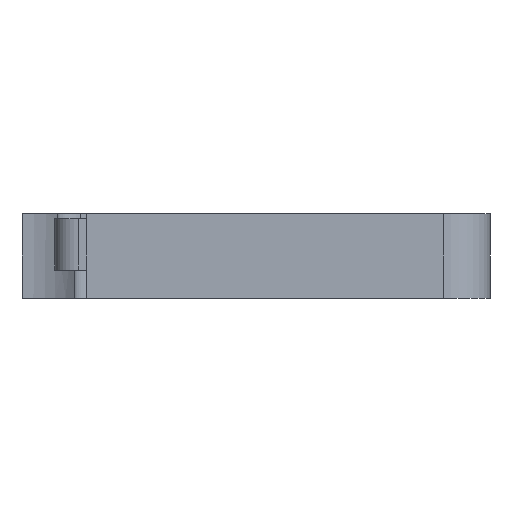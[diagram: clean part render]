
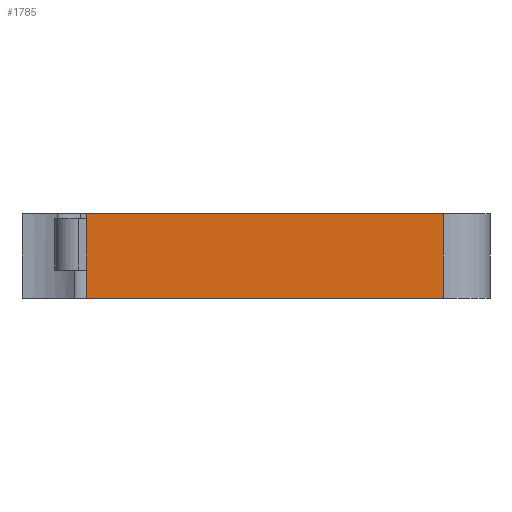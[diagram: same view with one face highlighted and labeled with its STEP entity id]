
A CAD part, front view. The second image highlights one B-rep face of the part: STEP entity #1785.
In plain terms, the highlighted planar face has unit normal (0, -1, 0).
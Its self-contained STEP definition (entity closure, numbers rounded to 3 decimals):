
#44 = PLANE('',#45);
#45 = AXIS2_PLACEMENT_3D('',#46,#47,#48);
#46 = CARTESIAN_POINT('',(-34.,-46.,10.9));
#47 = DIRECTION('',(0.,0.,1.));
#48 = DIRECTION('',(1.,0.,0.));
#98 = PLANE('',#99);
#99 = AXIS2_PLACEMENT_3D('',#100,#101,#102);
#100 = CARTESIAN_POINT('',(-34.,-46.,7.3));
#101 = DIRECTION('',(0.,0.,1.));
#102 = DIRECTION('',(1.,0.,0.));
#368 = VERTEX_POINT('',#369);
#369 = CARTESIAN_POINT('',(-31.25,-46.,10.9));
#388 = CYLINDRICAL_SURFACE('',#389,3.4);
#389 = AXIS2_PLACEMENT_3D('',#390,#391,#392);
#390 = CARTESIAN_POINT('',(-34.,-44.,-8.5));
#391 = DIRECTION('',(-0.,-0.,-1.));
#392 = DIRECTION('',(1.,0.,0.));
#400 = EDGE_CURVE('',#368,#401,#403,.T.);
#401 = VERTEX_POINT('',#402);
#402 = CARTESIAN_POINT('',(-16.,-46.,10.9));
#403 = SURFACE_CURVE('',#404,(#408,#415),.PCURVE_S1.);
#404 = LINE('',#405,#406);
#405 = CARTESIAN_POINT('',(-31.25,-46.,10.9));
#406 = VECTOR('',#407,1.);
#407 = DIRECTION('',(1.,0.,0.));
#408 = PCURVE('',#44,#409);
#409 = DEFINITIONAL_REPRESENTATION('',(#410),#414);
#410 = LINE('',#411,#412);
#411 = CARTESIAN_POINT('',(2.75,0.));
#412 = VECTOR('',#413,1.);
#413 = DIRECTION('',(1.,0.));
#414 = ( GEOMETRIC_REPRESENTATION_CONTEXT(2) 
PARAMETRIC_REPRESENTATION_CONTEXT() REPRESENTATION_CONTEXT('2D SPACE',''
  ) );
#415 = PCURVE('',#416,#421);
#416 = PLANE('',#417);
#417 = AXIS2_PLACEMENT_3D('',#418,#419,#420);
#418 = CARTESIAN_POINT('',(-34.,-46.,7.3));
#419 = DIRECTION('',(0.,1.,0.));
#420 = DIRECTION('',(0.,0.,1.));
#421 = DEFINITIONAL_REPRESENTATION('',(#422),#426);
#422 = LINE('',#423,#424);
#423 = CARTESIAN_POINT('',(3.6,2.75));
#424 = VECTOR('',#425,1.);
#425 = DIRECTION('',(0.,1.));
#426 = ( GEOMETRIC_REPRESENTATION_CONTEXT(2) 
PARAMETRIC_REPRESENTATION_CONTEXT() REPRESENTATION_CONTEXT('2D SPACE',''
  ) );
#449 = CYLINDRICAL_SURFACE('',#450,2.);
#450 = AXIS2_PLACEMENT_3D('',#451,#452,#453);
#451 = CARTESIAN_POINT('',(-16.,-44.,7.3));
#452 = DIRECTION('',(0.,0.,1.));
#453 = DIRECTION('',(1.,0.,-0.));
#915 = VERTEX_POINT('',#916);
#916 = CARTESIAN_POINT('',(-31.25,-46.,7.3));
#942 = EDGE_CURVE('',#915,#943,#945,.T.);
#943 = VERTEX_POINT('',#944);
#944 = CARTESIAN_POINT('',(-16.,-46.,7.3));
#945 = SURFACE_CURVE('',#946,(#950,#957),.PCURVE_S1.);
#946 = LINE('',#947,#948);
#947 = CARTESIAN_POINT('',(-34.,-46.,7.3));
#948 = VECTOR('',#949,1.);
#949 = DIRECTION('',(1.,0.,0.));
#950 = PCURVE('',#98,#951);
#951 = DEFINITIONAL_REPRESENTATION('',(#952),#956);
#952 = LINE('',#953,#954);
#953 = CARTESIAN_POINT('',(0.,0.));
#954 = VECTOR('',#955,1.);
#955 = DIRECTION('',(1.,0.));
#956 = ( GEOMETRIC_REPRESENTATION_CONTEXT(2) 
PARAMETRIC_REPRESENTATION_CONTEXT() REPRESENTATION_CONTEXT('2D SPACE',''
  ) );
#957 = PCURVE('',#416,#958);
#958 = DEFINITIONAL_REPRESENTATION('',(#959),#963);
#959 = LINE('',#960,#961);
#960 = CARTESIAN_POINT('',(0.,0.));
#961 = VECTOR('',#962,1.);
#962 = DIRECTION('',(0.,1.));
#963 = ( GEOMETRIC_REPRESENTATION_CONTEXT(2) 
PARAMETRIC_REPRESENTATION_CONTEXT() REPRESENTATION_CONTEXT('2D SPACE',''
  ) );
#1763 = EDGE_CURVE('',#943,#401,#1764,.T.);
#1764 = SURFACE_CURVE('',#1765,(#1769,#1776),.PCURVE_S1.);
#1765 = LINE('',#1766,#1767);
#1766 = CARTESIAN_POINT('',(-16.,-46.,7.3));
#1767 = VECTOR('',#1768,1.);
#1768 = DIRECTION('',(0.,0.,1.));
#1769 = PCURVE('',#449,#1770);
#1770 = DEFINITIONAL_REPRESENTATION('',(#1771),#1775);
#1771 = LINE('',#1772,#1773);
#1772 = CARTESIAN_POINT('',(-1.571,0.));
#1773 = VECTOR('',#1774,1.);
#1774 = DIRECTION('',(-0.,1.));
#1775 = ( GEOMETRIC_REPRESENTATION_CONTEXT(2) 
PARAMETRIC_REPRESENTATION_CONTEXT() REPRESENTATION_CONTEXT('2D SPACE',''
  ) );
#1776 = PCURVE('',#416,#1777);
#1777 = DEFINITIONAL_REPRESENTATION('',(#1778),#1782);
#1778 = LINE('',#1779,#1780);
#1779 = CARTESIAN_POINT('',(0.,18.));
#1780 = VECTOR('',#1781,1.);
#1781 = DIRECTION('',(1.,0.));
#1782 = ( GEOMETRIC_REPRESENTATION_CONTEXT(2) 
PARAMETRIC_REPRESENTATION_CONTEXT() REPRESENTATION_CONTEXT('2D SPACE',''
  ) );
#1785 = ADVANCED_FACE('',(#1786),#416,.F.);
#1786 = FACE_BOUND('',#1787,.F.);
#1787 = EDGE_LOOP('',(#1788,#1789,#1808,#1809));
#1788 = ORIENTED_EDGE('',*,*,#942,.F.);
#1789 = ORIENTED_EDGE('',*,*,#1790,.F.);
#1790 = EDGE_CURVE('',#368,#915,#1791,.T.);
#1791 = SURFACE_CURVE('',#1792,(#1796,#1802),.PCURVE_S1.);
#1792 = LINE('',#1793,#1794);
#1793 = CARTESIAN_POINT('',(-31.25,-46.,-8.5));
#1794 = VECTOR('',#1795,1.);
#1795 = DIRECTION('',(-0.,-0.,-1.));
#1796 = PCURVE('',#416,#1797);
#1797 = DEFINITIONAL_REPRESENTATION('',(#1798),#1801);
#1798 = B_SPLINE_CURVE_WITH_KNOTS('',1,(#1799,#1800),.UNSPECIFIED.,.F.,
  .F.,(2,2),(-19.4,-15.44),.PIECEWISE_BEZIER_KNOTS.);
#1799 = CARTESIAN_POINT('',(3.6,2.75));
#1800 = CARTESIAN_POINT('',(-0.36,2.75));
#1801 = ( GEOMETRIC_REPRESENTATION_CONTEXT(2) 
PARAMETRIC_REPRESENTATION_CONTEXT() REPRESENTATION_CONTEXT('2D SPACE',''
  ) );
#1802 = PCURVE('',#388,#1803);
#1803 = DEFINITIONAL_REPRESENTATION('',(#1804),#1807);
#1804 = B_SPLINE_CURVE_WITH_KNOTS('',1,(#1805,#1806),.UNSPECIFIED.,.F.,
  .F.,(2,2),(-19.4,-15.44),.PIECEWISE_BEZIER_KNOTS.);
#1805 = CARTESIAN_POINT('',(-5.654,-19.4));
#1806 = CARTESIAN_POINT('',(-5.654,-15.44));
#1807 = ( GEOMETRIC_REPRESENTATION_CONTEXT(2) 
PARAMETRIC_REPRESENTATION_CONTEXT() REPRESENTATION_CONTEXT('2D SPACE',''
  ) );
#1808 = ORIENTED_EDGE('',*,*,#400,.T.);
#1809 = ORIENTED_EDGE('',*,*,#1763,.F.);
